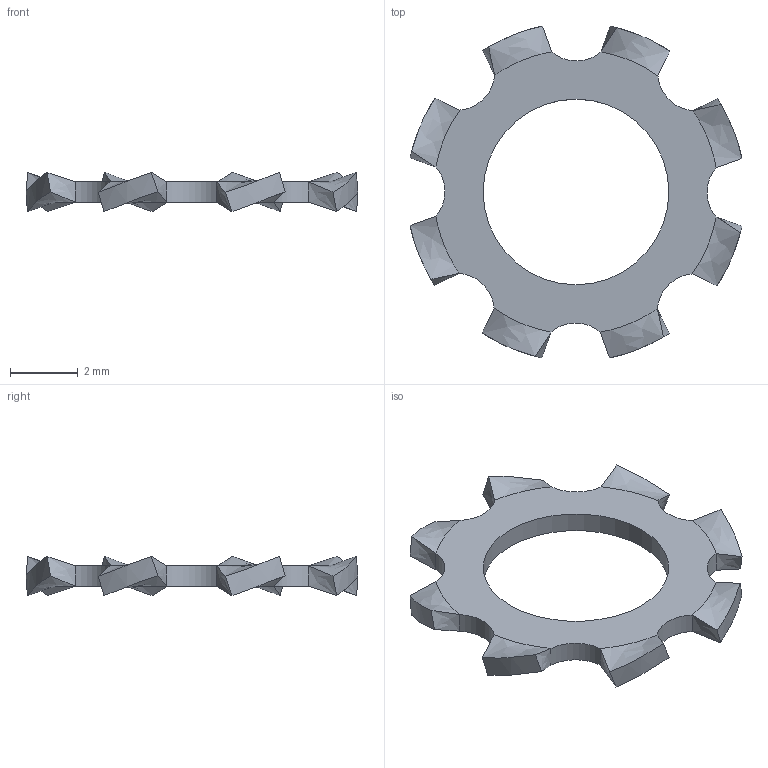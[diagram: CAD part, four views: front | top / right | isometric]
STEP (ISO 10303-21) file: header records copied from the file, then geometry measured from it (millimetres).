
FILE_DESCRIPTION(/* description */ (''),/* implementation_level */ '2;1');
FILE_NAME(/* name */ '2380-HLW-M5-A2.step',/* time_stamp */ '2023-02-14T16:55:27Z',/* author */ (''),/* organization */ (''),/* preprocessor_version */ 'ST-DEVELOPER v19.2',/* originating_system */ 'Autodesk Translation Framework v11.17.0.187',/* authorisation */ '');
FILE_SCHEMA (('AUTOMOTIVE_DESIGN { 1 0 10303 214 3 1 1 }'));
Length unit declared in the file: millimetre
Products named in the file (1): 2380-HLW-M5-A2
Bounding box: 9.8 x 9.8 x 1.16 mm (x, y, z)
Volume: 24.4 mm3; surface area: 116.8 mm2
Topology: 1 solids, 1 shells, 51 faces, 147 edges, 98 vertices
Faces by surface type: bspline 32, cylinder 17, plane 2
Full cylindrical faces by diameter (mm): 5.48 x1
Entity records: 2240 total; most frequent: CARTESIAN_POINT 1001, ORIENTED_EDGE 294, DIRECTION 189, EDGE_CURVE 147, VERTEX_POINT 98, AXIS2_PLACEMENT_3D 70, EDGE_LOOP 53, FACE_OUTER_BOUND 51
